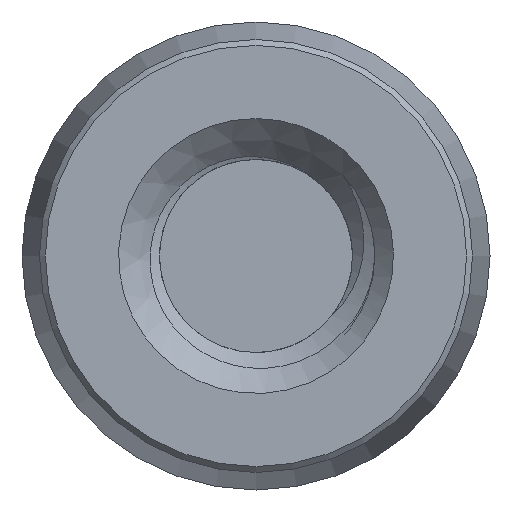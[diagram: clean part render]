
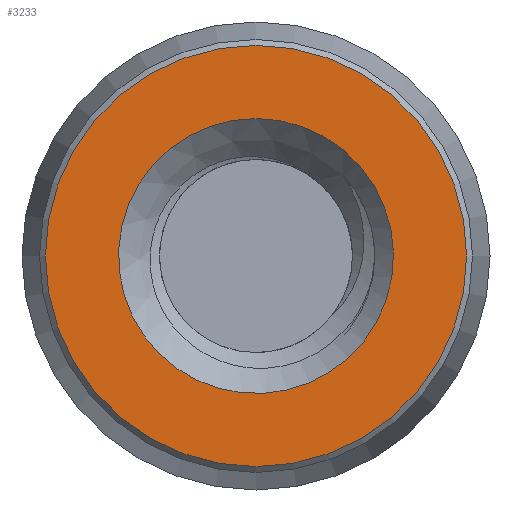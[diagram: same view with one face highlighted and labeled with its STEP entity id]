
A CAD part, front view. The second image highlights one B-rep face of the part: STEP entity #3233.
In plain terms, the highlighted planar face has unit normal (0, -1, 0).
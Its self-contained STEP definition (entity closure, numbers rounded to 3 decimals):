
#129 = DIRECTION ( 'NONE',  ( 0., 1., 0. ) ) ;
#409 = DIRECTION ( 'NONE',  ( 0., 0., 1. ) ) ;
#473 = CARTESIAN_POINT ( 'NONE',  ( 0., 0., 3.6 ) ) ;
#776 = AXIS2_PLACEMENT_3D ( 'NONE', #2143, #129, #409 ) ;
#790 = DIRECTION ( 'NONE',  ( 0., 0., 1. ) ) ;
#1029 = VERTEX_POINT ( 'NONE', #473 ) ;
#1103 = DIRECTION ( 'NONE',  ( 0., -1., 0. ) ) ;
#1253 = FACE_BOUND ( 'NONE', #2604, .T. ) ;
#1267 = EDGE_LOOP ( 'NONE', ( #1852 ) ) ;
#1284 = ORIENTED_EDGE ( 'NONE', *, *, #1469, .T. ) ;
#1360 = DIRECTION ( 'NONE',  ( 0., 1., 0. ) ) ;
#1422 = CIRCLE ( 'NONE', #776, 2.35 ) ;
#1469 = EDGE_CURVE ( 'NONE', #1971, #1971, #1422, .T. ) ;
#1621 = AXIS2_PLACEMENT_3D ( 'NONE', #2799, #1103, #2249 ) ;
#1625 = CARTESIAN_POINT ( 'NONE',  ( 0., 0., 2.35 ) ) ;
#1852 = ORIENTED_EDGE ( 'NONE', *, *, #3454, .T. ) ;
#1971 = VERTEX_POINT ( 'NONE', #1625 ) ;
#2143 = CARTESIAN_POINT ( 'NONE',  ( 0., 0., 0. ) ) ;
#2185 = PLANE ( 'NONE',  #2967 ) ;
#2249 = DIRECTION ( 'NONE',  ( 0., 0., 1. ) ) ;
#2359 = CIRCLE ( 'NONE', #1621, 3.6 ) ;
#2604 = EDGE_LOOP ( 'NONE', ( #1284 ) ) ;
#2799 = CARTESIAN_POINT ( 'NONE',  ( 0., 0., 0. ) ) ;
#2932 = FACE_OUTER_BOUND ( 'NONE', #1267, .T. ) ;
#2967 = AXIS2_PLACEMENT_3D ( 'NONE', #3594, #1360, #790 ) ;
#3233 = ADVANCED_FACE ( 'NONE', ( #1253, #2932 ), #2185, .F. ) ;
#3454 = EDGE_CURVE ( 'NONE', #1029, #1029, #2359, .T. ) ;
#3594 = CARTESIAN_POINT ( 'NONE',  ( -3.7, 0., 0. ) ) ;
